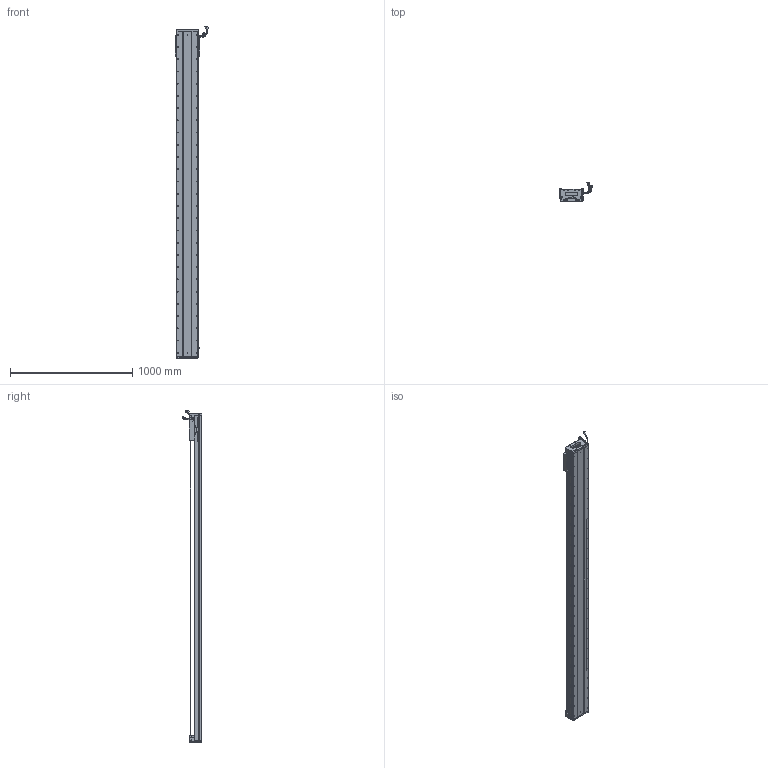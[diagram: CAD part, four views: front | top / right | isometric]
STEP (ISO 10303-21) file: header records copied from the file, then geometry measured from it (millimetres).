
FILE_DESCRIPTION (( 'STEP AP203' ), '1' );
FILE_NAME ('Z2-RY170D-1-L500-B-K.SLDASM_2400.step', '2021-05-17T09:10:47', ( '盈信电脑' ), ( '东莞市道滘镇水果街19号' ), 'SwSTEP 2.0', 'SolidWorks 2016', '' );
FILE_SCHEMA (( 'CONFIG_CONTROL_DESIGN' ));
Length unit declared in the file: millimetre
Products named in the file (36): COVER; PSLH080_PSLF2; Z-RY170詩湍狟揤裔; SEAL-Part-1; SCREW-M1.6; HARNESS-Part-2; 140蚥薯蝶輸; Z-RY170詩湍奻揤裔; HOLDER0; HARNESS; Z2-RY170D-1-L500-B-K.SLDASM_2400; 170-Z-臏賑輸盄裔(21遴); 080黍杅芛假蚾釱21遴; LABEL; SCREW-M1.6-1; 榋妏寠巭燃_暯_M2_2; SCREW-M1.6-3; Z2-RY170-L500詩湍145mm遵_2400; SCALE-Part-2; PBU_SHEET; RY170直线电机感应器672光电感应片; HARNESS-Part-1; SCREW-M1.6-2; COVER-Part-1; SCREW-M1.7; Z2-RY170-L500耀郪菁釱_2400; LABEL-Part-1; 140雄赽晤鎢ん堤盄; SEAL; SCALE; SCREW-M1.7-1; SCALE-Part-1; SHIELDPLATE; Z2-RY170臏賑輸(21遴); 覜茼ん672; Z-170詩湍傷裔啣
Assembly tree (41 placements, depth 4):
  Z2-RY170D-1-L500-B-K.SLDASM_2400
    Z2-RY170-L500耀郪菁釱_2400
    RY170直线电机感应器672光电感应片
    Z2-RY170臏賑輸(21遴)
    覜茼ん672  x3
    PSLH080_PSLF2
      SCALE
        SCALE-Part-1
        SCALE-Part-2
      HARNESS
        HARNESS-Part-1
        HARNESS-Part-2
      LABEL
        LABEL-Part-1
      COVER
        COVER-Part-1
      SEAL
        SEAL-Part-1
      榋妏寠巭燃_暯_M2_2
      SHIELDPLATE
      SCREW-M1.7
      SCREW-M1.7-1
      PBU_SHEET
      SCREW-M1.6
      SCREW-M1.6-1
      SCREW-M1.6-2
      SCREW-M1.6-3
      HOLDER0
    080黍杅芛假蚾釱21遴
    Z2-RY170-L500詩湍145mm遵_2400
    Z-170詩湍傷裔啣  x2
    Z-RY170詩湍奻揤裔  x2
    Z-RY170詩湍狟揤裔  x2
    140蚥薯蝶輸  x2
    170-Z-臏賑輸盄裔(21遴)
    140雄赽晤鎢ん堤盄
Bounding box: 275.29 x 158.11 x 2713.72 mm (x, y, z)
Volume: 13223644.7 mm3; surface area: 3281345.1 mm2
Topology: 36 solids, 36 shells, 4132 faces, 11499 edges, 7187 vertices
Faces by surface type: cylinder 2098, plane 1328, cone 584, torus 69, bspline 53
Entity records: 131043 total; most frequent: CARTESIAN_POINT 37036, ORIENTED_EDGE 19434, DIRECTION 17989, EDGE_CURVE 9717, AXIS2_PLACEMENT_3D 6630, VERTEX_POINT 6305, VECTOR 4729, LINE 4729
